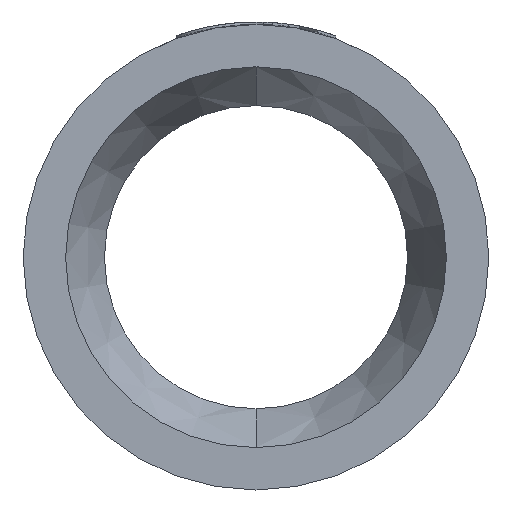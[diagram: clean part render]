
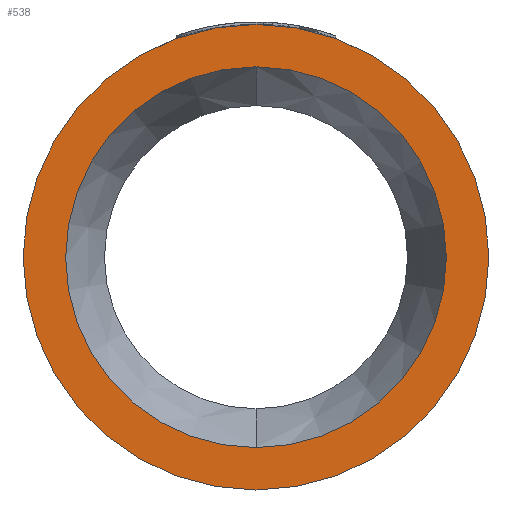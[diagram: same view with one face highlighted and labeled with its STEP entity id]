
A CAD part, left-side view. The second image highlights one B-rep face of the part: STEP entity #538.
In plain terms, the highlighted planar face has unit normal (-1, 0, 0).
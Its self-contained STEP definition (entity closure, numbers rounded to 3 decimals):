
#1 = VERTEX_POINT ( 'NONE', #2880 ) ;
#67 = EDGE_CURVE ( 'NONE', #2710, #3201, #3312, .T. ) ;
#89 = CARTESIAN_POINT ( 'NONE',  ( 0., 0., -36.8 ) ) ;
#214 = EDGE_CURVE ( 'NONE', #2179, #1, #2505, .T. ) ;
#292 = ORIENTED_EDGE ( 'NONE', *, *, #749, .T. ) ;
#506 = ORIENTED_EDGE ( 'NONE', *, *, #67, .T. ) ;
#512 = ORIENTED_EDGE ( 'NONE', *, *, #214, .F. ) ;
#520 = ORIENTED_EDGE ( 'NONE', *, *, #731, .F. ) ;
#538 = ADVANCED_FACE ( 'NONE', ( #2744, #2740 ), #2809, .F. ) ;
#662 = AXIS2_PLACEMENT_3D ( 'NONE', #1876, #1859, #1848 ) ;
#670 = AXIS2_PLACEMENT_3D ( 'NONE', #2009, #1959, #1949 ) ;
#731 = EDGE_CURVE ( 'NONE', #1, #2179, #1241, .T. ) ;
#749 = EDGE_CURVE ( 'NONE', #3201, #2710, #1325, .T. ) ;
#896 = EDGE_LOOP ( 'NONE', ( #520, #512 ) ) ;
#1229 = DIRECTION ( 'NONE',  ( 0., 0., 1. ) ) ;
#1236 = DIRECTION ( 'NONE',  ( -1., 0., 0. ) ) ;
#1241 = CIRCLE ( 'NONE', #670, 36.8 ) ;
#1250 = CARTESIAN_POINT ( 'NONE',  ( 0., 0., 0. ) ) ;
#1325 = CIRCLE ( 'NONE', #662, 45. ) ;
#1336 = AXIS2_PLACEMENT_3D ( 'NONE', #2749, #2741, #2732 ) ;
#1848 = DIRECTION ( 'NONE',  ( 0., 0., 1. ) ) ;
#1859 = DIRECTION ( 'NONE',  ( -1., 0., 0. ) ) ;
#1876 = CARTESIAN_POINT ( 'NONE',  ( 0., 0., 0. ) ) ;
#1949 = DIRECTION ( 'NONE',  ( 0., 0., 1. ) ) ;
#1959 = DIRECTION ( 'NONE',  ( -1., 0., 0. ) ) ;
#2009 = CARTESIAN_POINT ( 'NONE',  ( 0., 0., 0. ) ) ;
#2044 = EDGE_LOOP ( 'NONE', ( #506, #292 ) ) ;
#2053 = CARTESIAN_POINT ( 'NONE',  ( 0., 0., -45. ) ) ;
#2092 = AXIS2_PLACEMENT_3D ( 'NONE', #1250, #1236, #1229 ) ;
#2179 = VERTEX_POINT ( 'NONE', #89 ) ;
#2425 = CARTESIAN_POINT ( 'NONE',  ( 0., 0., 45. ) ) ;
#2505 = CIRCLE ( 'NONE', #2092, 36.8 ) ;
#2630 = DIRECTION ( 'NONE',  ( 0., 0., 1. ) ) ;
#2632 = DIRECTION ( 'NONE',  ( -1., 0., 0. ) ) ;
#2633 = CARTESIAN_POINT ( 'NONE',  ( 0., 0., 0. ) ) ;
#2710 = VERTEX_POINT ( 'NONE', #2425 ) ;
#2732 = DIRECTION ( 'NONE',  ( 0., 0., -1. ) ) ;
#2740 = FACE_OUTER_BOUND ( 'NONE', #2044, .T. ) ;
#2741 = DIRECTION ( 'NONE',  ( 1., 0., 0. ) ) ;
#2744 = FACE_BOUND ( 'NONE', #896, .T. ) ;
#2749 = CARTESIAN_POINT ( 'NONE',  ( 0., 36.8, 0. ) ) ;
#2809 = PLANE ( 'NONE',  #1336 ) ;
#2880 = CARTESIAN_POINT ( 'NONE',  ( 0., 0., 36.8 ) ) ;
#3201 = VERTEX_POINT ( 'NONE', #2053 ) ;
#3227 = AXIS2_PLACEMENT_3D ( 'NONE', #2633, #2632, #2630 ) ;
#3312 = CIRCLE ( 'NONE', #3227, 45. ) ;
